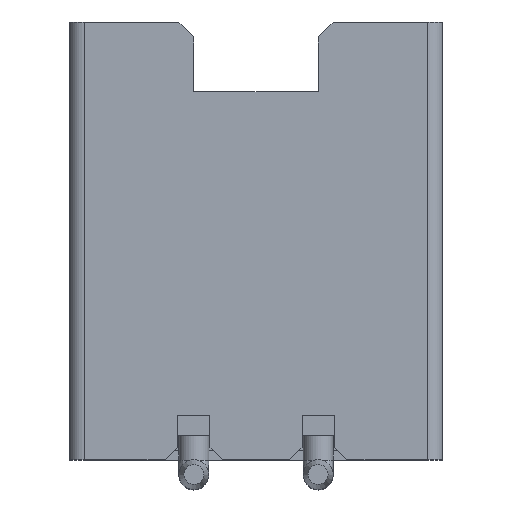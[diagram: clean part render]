
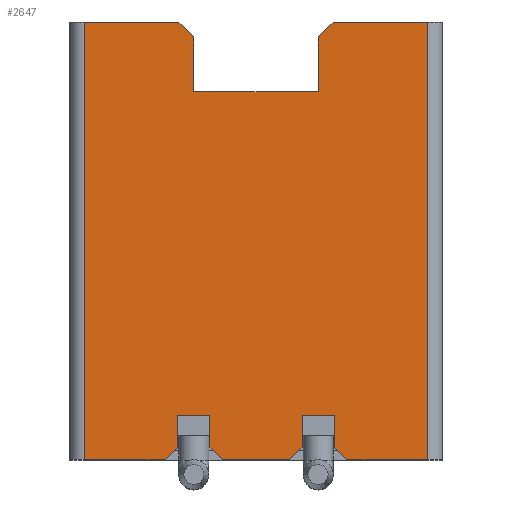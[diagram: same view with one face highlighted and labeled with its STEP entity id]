
A CAD part, top view. The second image highlights one B-rep face of the part: STEP entity #2647.
In plain terms, the highlighted planar face has unit normal (0, 0, 1).
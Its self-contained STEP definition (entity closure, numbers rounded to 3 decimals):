
#151=FACE_OUTER_BOUND('',#282,.T.);
#282=EDGE_LOOP('',(#1976,#1977,#1978,#1979,#1980,#1981,#1982,#1983,#1984,
#1985,#1986,#1987,#1988,#1989,#1990,#1991,#1992,#1993,#1994,#1995,#1996,
#1997));
#447=LINE('',#3784,#775);
#449=LINE('',#3789,#777);
#510=LINE('',#3915,#838);
#515=LINE('',#3924,#843);
#516=LINE('',#3928,#844);
#519=LINE('',#3935,#847);
#520=LINE('',#3938,#848);
#524=LINE('',#3945,#852);
#548=LINE('',#4042,#876);
#549=LINE('',#4044,#877);
#550=LINE('',#4046,#878);
#551=LINE('',#4048,#879);
#552=LINE('',#4050,#880);
#553=LINE('',#4052,#881);
#554=LINE('',#4054,#882);
#555=LINE('',#4056,#883);
#556=LINE('',#4058,#884);
#557=LINE('',#4060,#885);
#558=LINE('',#4062,#886);
#559=LINE('',#4063,#887);
#560=LINE('',#4064,#888);
#561=LINE('',#4065,#889);
#775=VECTOR('',#3082,1000.);
#777=VECTOR('',#3086,1000.);
#838=VECTOR('',#3181,1000.);
#843=VECTOR('',#3188,1000.);
#844=VECTOR('',#3193,1000.);
#847=VECTOR('',#3200,1000.);
#848=VECTOR('',#3203,1000.);
#852=VECTOR('',#3209,1000.);
#876=VECTOR('',#3291,1000.);
#877=VECTOR('',#3292,1000.);
#878=VECTOR('',#3293,1000.);
#879=VECTOR('',#3294,1000.);
#880=VECTOR('',#3295,1000.);
#881=VECTOR('',#3296,1000.);
#882=VECTOR('',#3297,1000.);
#883=VECTOR('',#3298,1000.);
#884=VECTOR('',#3299,1000.);
#885=VECTOR('',#3300,1000.);
#886=VECTOR('',#3301,1000.);
#887=VECTOR('',#3302,1000.);
#888=VECTOR('',#3303,1000.);
#889=VECTOR('',#3304,1000.);
#1080=VERTEX_POINT('',#3781);
#1081=VERTEX_POINT('',#3783);
#1082=VERTEX_POINT('',#3787);
#1083=VERTEX_POINT('',#3788);
#1130=VERTEX_POINT('',#3912);
#1131=VERTEX_POINT('',#3914);
#1134=VERTEX_POINT('',#3922);
#1135=VERTEX_POINT('',#3926);
#1137=VERTEX_POINT('',#3933);
#1138=VERTEX_POINT('',#3937);
#1140=VERTEX_POINT('',#3943);
#1157=VERTEX_POINT('',#4041);
#1158=VERTEX_POINT('',#4043);
#1159=VERTEX_POINT('',#4045);
#1160=VERTEX_POINT('',#4047);
#1161=VERTEX_POINT('',#4049);
#1162=VERTEX_POINT('',#4051);
#1163=VERTEX_POINT('',#4053);
#1164=VERTEX_POINT('',#4055);
#1165=VERTEX_POINT('',#4057);
#1166=VERTEX_POINT('',#4059);
#1167=VERTEX_POINT('',#4061);
#1351=EDGE_CURVE('',#1081,#1080,#447,.T.);
#1353=EDGE_CURVE('',#1082,#1083,#449,.T.);
#1417=EDGE_CURVE('',#1130,#1131,#510,.T.);
#1422=EDGE_CURVE('',#1130,#1134,#515,.T.);
#1424=EDGE_CURVE('',#1135,#1134,#516,.T.);
#1428=EDGE_CURVE('',#1135,#1137,#519,.T.);
#1429=EDGE_CURVE('',#1138,#1083,#520,.T.);
#1433=EDGE_CURVE('',#1080,#1140,#524,.T.);
#1467=EDGE_CURVE('',#1140,#1157,#548,.T.);
#1468=EDGE_CURVE('',#1157,#1158,#549,.T.);
#1469=EDGE_CURVE('',#1159,#1158,#550,.T.);
#1470=EDGE_CURVE('',#1160,#1159,#551,.T.);
#1471=EDGE_CURVE('',#1160,#1161,#552,.T.);
#1472=EDGE_CURVE('',#1161,#1162,#553,.T.);
#1473=EDGE_CURVE('',#1162,#1163,#554,.T.);
#1474=EDGE_CURVE('',#1163,#1164,#555,.T.);
#1475=EDGE_CURVE('',#1165,#1164,#556,.T.);
#1476=EDGE_CURVE('',#1165,#1166,#557,.T.);
#1477=EDGE_CURVE('',#1167,#1166,#558,.T.);
#1478=EDGE_CURVE('',#1131,#1167,#559,.T.);
#1479=EDGE_CURVE('',#1137,#1138,#560,.T.);
#1480=EDGE_CURVE('',#1081,#1082,#561,.T.);
#1976=ORIENTED_EDGE('',*,*,#1467,.T.);
#1977=ORIENTED_EDGE('',*,*,#1468,.T.);
#1978=ORIENTED_EDGE('',*,*,#1469,.F.);
#1979=ORIENTED_EDGE('',*,*,#1470,.F.);
#1980=ORIENTED_EDGE('',*,*,#1471,.T.);
#1981=ORIENTED_EDGE('',*,*,#1472,.T.);
#1982=ORIENTED_EDGE('',*,*,#1473,.T.);
#1983=ORIENTED_EDGE('',*,*,#1474,.T.);
#1984=ORIENTED_EDGE('',*,*,#1475,.F.);
#1985=ORIENTED_EDGE('',*,*,#1476,.T.);
#1986=ORIENTED_EDGE('',*,*,#1477,.F.);
#1987=ORIENTED_EDGE('',*,*,#1478,.F.);
#1988=ORIENTED_EDGE('',*,*,#1417,.F.);
#1989=ORIENTED_EDGE('',*,*,#1422,.T.);
#1990=ORIENTED_EDGE('',*,*,#1424,.F.);
#1991=ORIENTED_EDGE('',*,*,#1428,.T.);
#1992=ORIENTED_EDGE('',*,*,#1479,.T.);
#1993=ORIENTED_EDGE('',*,*,#1429,.T.);
#1994=ORIENTED_EDGE('',*,*,#1353,.F.);
#1995=ORIENTED_EDGE('',*,*,#1480,.F.);
#1996=ORIENTED_EDGE('',*,*,#1351,.T.);
#1997=ORIENTED_EDGE('',*,*,#1433,.T.);
#2396=PLANE('',#2818);
#2647=ADVANCED_FACE('',(#151),#2396,.F.);
#2818=AXIS2_PLACEMENT_3D('',#4040,#3289,#3290);
#3082=DIRECTION('',(0.,-1.,0.));
#3086=DIRECTION('',(0.,-1.,0.));
#3181=DIRECTION('',(0.,-1.,0.));
#3188=DIRECTION('',(-0.707,0.707,0.));
#3193=DIRECTION('',(1.,0.,0.));
#3200=DIRECTION('',(0.,-1.,0.));
#3203=DIRECTION('',(0.707,0.707,0.));
#3209=DIRECTION('',(0.707,-0.707,0.));
#3289=DIRECTION('center_axis',(0.,0.,-1.));
#3290=DIRECTION('ref_axis',(-1.,0.,0.));
#3291=DIRECTION('',(1.,0.,0.));
#3292=DIRECTION('',(0.707,0.707,0.));
#3293=DIRECTION('',(0.,-1.,0.));
#3294=DIRECTION('',(-1.,0.,0.));
#3295=DIRECTION('',(0.,-1.,0.));
#3296=DIRECTION('',(0.707,-0.707,0.));
#3297=DIRECTION('',(1.,0.,0.));
#3298=DIRECTION('',(0.,1.,0.));
#3299=DIRECTION('',(1.,0.,0.));
#3300=DIRECTION('',(-0.707,-0.707,0.));
#3301=DIRECTION('',(0.,1.,0.));
#3302=DIRECTION('',(1.,0.,0.));
#3303=DIRECTION('',(1.,0.,0.));
#3304=DIRECTION('',(-1.,0.,0.));
#3781=CARTESIAN_POINT('',(-50.296,-7.186,3.2));
#3783=CARTESIAN_POINT('',(-50.296,-6.536,3.2));
#3784=CARTESIAN_POINT('',(-50.296,-6.536,3.2));
#3787=CARTESIAN_POINT('',(-50.946,-6.536,3.2));
#3788=CARTESIAN_POINT('',(-50.946,-7.186,3.2));
#3789=CARTESIAN_POINT('',(-50.946,-6.536,3.2));
#3912=CARTESIAN_POINT('',(-50.621,1.064,3.2));
#3914=CARTESIAN_POINT('',(-50.621,-0.036,3.2));
#3915=CARTESIAN_POINT('',(-50.621,1.364,3.2));
#3922=CARTESIAN_POINT('',(-50.921,1.364,3.2));
#3924=CARTESIAN_POINT('',(-50.621,1.064,3.2));
#3926=CARTESIAN_POINT('',(-52.821,1.364,3.2));
#3928=CARTESIAN_POINT('',(-53.121,1.364,3.2));
#3933=CARTESIAN_POINT('',(-52.821,-7.436,3.2));
#3935=CARTESIAN_POINT('',(-52.821,1.364,3.2));
#3937=CARTESIAN_POINT('',(-51.196,-7.436,3.2));
#3938=CARTESIAN_POINT('',(-50.946,-7.186,3.2));
#3943=CARTESIAN_POINT('',(-50.046,-7.436,3.2));
#3945=CARTESIAN_POINT('',(-50.296,-7.186,3.2));
#4040=CARTESIAN_POINT('Origin',(-65.621,1.364,3.2));
#4041=CARTESIAN_POINT('',(-48.696,-7.436,3.2));
#4042=CARTESIAN_POINT('',(-63.121,-7.436,3.2));
#4043=CARTESIAN_POINT('',(-48.446,-7.186,3.2));
#4044=CARTESIAN_POINT('',(-48.446,-7.186,3.2));
#4045=CARTESIAN_POINT('',(-48.446,-6.536,3.2));
#4046=CARTESIAN_POINT('',(-48.446,-6.536,3.2));
#4047=CARTESIAN_POINT('',(-47.796,-6.536,3.2));
#4048=CARTESIAN_POINT('',(-48.446,-6.536,3.2));
#4049=CARTESIAN_POINT('',(-47.796,-7.186,3.2));
#4050=CARTESIAN_POINT('',(-47.796,-6.536,3.2));
#4051=CARTESIAN_POINT('',(-47.546,-7.436,3.2));
#4052=CARTESIAN_POINT('',(-47.796,-7.186,3.2));
#4053=CARTESIAN_POINT('',(-45.921,-7.436,3.2));
#4054=CARTESIAN_POINT('',(-63.121,-7.436,3.2));
#4055=CARTESIAN_POINT('',(-45.921,1.364,3.2));
#4056=CARTESIAN_POINT('',(-45.921,1.364,3.2));
#4057=CARTESIAN_POINT('',(-47.821,1.364,3.2));
#4058=CARTESIAN_POINT('',(-63.121,1.364,3.2));
#4059=CARTESIAN_POINT('',(-48.121,1.064,3.2));
#4060=CARTESIAN_POINT('',(-47.821,1.364,3.2));
#4061=CARTESIAN_POINT('',(-48.121,-0.036,3.2));
#4062=CARTESIAN_POINT('',(-48.121,1.364,3.2));
#4063=CARTESIAN_POINT('',(-60.621,-0.036,3.2));
#4064=CARTESIAN_POINT('',(-53.121,-7.436,3.2));
#4065=CARTESIAN_POINT('',(-50.946,-6.536,3.2));
